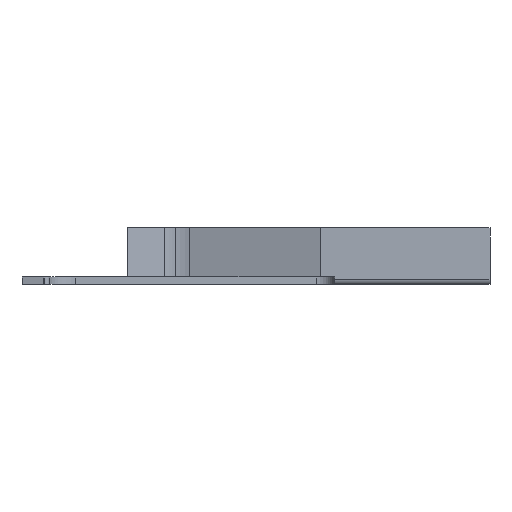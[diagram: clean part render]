
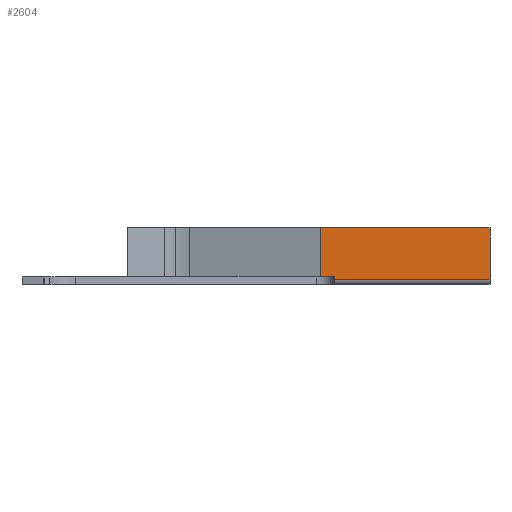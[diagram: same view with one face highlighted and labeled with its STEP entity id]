
A CAD part, left-side view. The second image highlights one B-rep face of the part: STEP entity #2604.
In plain terms, the highlighted planar face has unit normal (-1, 0, 0).
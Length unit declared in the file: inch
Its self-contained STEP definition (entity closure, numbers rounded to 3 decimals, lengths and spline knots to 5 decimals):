
#111 = DIRECTION ( 'NONE',  ( 0., -1., 0. ) ) ;
#135 = LINE ( 'NONE', #3524, #1056 ) ;
#137 = PLANE ( 'NONE',  #1538 ) ;
#325 = EDGE_CURVE ( 'NONE', #2102, #2536, #1574, .T. ) ;
#362 = DIRECTION ( 'NONE',  ( 0., 1., 0. ) ) ;
#379 = CARTESIAN_POINT ( 'NONE',  ( -0.1768, -0.23504, -0.06772 ) ) ;
#477 = CARTESIAN_POINT ( 'NONE',  ( -0.1768, -0.16654, -0.06654 ) ) ;
#538 = ORIENTED_EDGE ( 'NONE', *, *, #3337, .T. ) ;
#571 = ORIENTED_EDGE ( 'NONE', *, *, #1907, .T. ) ;
#692 = VECTOR ( 'NONE', #1512, 39.37008 ) ;
#781 = ORIENTED_EDGE ( 'NONE', *, *, #1572, .F. ) ;
#799 = CARTESIAN_POINT ( 'NONE',  ( -0.1768, -0.16036, -0.04488 ) ) ;
#1056 = VECTOR ( 'NONE', #2099, 39.37008 ) ;
#1083 = DIRECTION ( 'NONE',  ( 0., 0., -1. ) ) ;
#1123 = VECTOR ( 'NONE', #3047, 39.37008 ) ;
#1172 = VERTEX_POINT ( 'NONE', #1565 ) ;
#1202 = ORIENTED_EDGE ( 'NONE', *, *, #3077, .F. ) ;
#1269 = CARTESIAN_POINT ( 'NONE',  ( -0.1768, -0.16036, -0.06654 ) ) ;
#1455 = CARTESIAN_POINT ( 'NONE',  ( -0.1768, -0.23504, -0.04488 ) ) ;
#1512 = DIRECTION ( 'NONE',  ( 0., 0., -1. ) ) ;
#1538 = AXIS2_PLACEMENT_3D ( 'NONE', #3545, #1836, #362 ) ;
#1563 = EDGE_CURVE ( 'NONE', #1616, #1172, #135, .T. ) ;
#1565 = CARTESIAN_POINT ( 'NONE',  ( -0.1768, -0.16036, -0.06654 ) ) ;
#1572 = EDGE_CURVE ( 'NONE', #3120, #2626, #2131, .T. ) ;
#1574 = LINE ( 'NONE', #2668, #692 ) ;
#1616 = VERTEX_POINT ( 'NONE', #3043 ) ;
#1664 = VECTOR ( 'NONE', #111, 39.37008 ) ;
#1836 = DIRECTION ( 'NONE',  ( 1., 0., 0. ) ) ;
#1907 = EDGE_CURVE ( 'NONE', #1172, #2102, #2424, .T. ) ;
#1938 = DIRECTION ( 'NONE',  ( 0., -1., 0. ) ) ;
#2099 = DIRECTION ( 'NONE',  ( 0., 0., -1. ) ) ;
#2102 = VERTEX_POINT ( 'NONE', #477 ) ;
#2131 = LINE ( 'NONE', #3260, #3380 ) ;
#2369 = LINE ( 'NONE', #3495, #1123 ) ;
#2378 = VECTOR ( 'NONE', #1938, 39.37008 ) ;
#2419 = CARTESIAN_POINT ( 'NONE',  ( -0.1768, -0.16654, -0.06772 ) ) ;
#2424 = LINE ( 'NONE', #1269, #1664 ) ;
#2536 = VERTEX_POINT ( 'NONE', #2419 ) ;
#2604 = ADVANCED_FACE ( 'NONE', ( #2692 ), #137, .F. ) ;
#2626 = VERTEX_POINT ( 'NONE', #379 ) ;
#2668 = CARTESIAN_POINT ( 'NONE',  ( -0.1768, -0.16654, -0.06654 ) ) ;
#2692 = FACE_OUTER_BOUND ( 'NONE', #2757, .T. ) ;
#2757 = EDGE_LOOP ( 'NONE', ( #3468, #538, #781, #1202, #3547, #571 ) ) ;
#3043 = CARTESIAN_POINT ( 'NONE',  ( -0.1768, -0.16036, -0.04488 ) ) ;
#3047 = DIRECTION ( 'NONE',  ( 0., -1., 0. ) ) ;
#3077 = EDGE_CURVE ( 'NONE', #1616, #3120, #3351, .T. ) ;
#3120 = VERTEX_POINT ( 'NONE', #1455 ) ;
#3260 = CARTESIAN_POINT ( 'NONE',  ( -0.1768, -0.23504, -0.06654 ) ) ;
#3337 = EDGE_CURVE ( 'NONE', #2536, #2626, #2369, .T. ) ;
#3351 = LINE ( 'NONE', #799, #2378 ) ;
#3380 = VECTOR ( 'NONE', #1083, 39.37008 ) ;
#3468 = ORIENTED_EDGE ( 'NONE', *, *, #325, .T. ) ;
#3495 = CARTESIAN_POINT ( 'NONE',  ( -0.1768, -0.21043, -0.06772 ) ) ;
#3524 = CARTESIAN_POINT ( 'NONE',  ( -0.1768, -0.16036, -0.04488 ) ) ;
#3545 = CARTESIAN_POINT ( 'NONE',  ( -0.1768, -0.21043, -0.06654 ) ) ;
#3547 = ORIENTED_EDGE ( 'NONE', *, *, #1563, .T. ) ;
